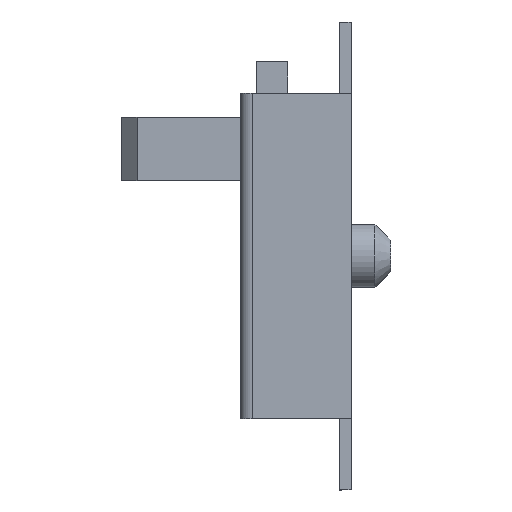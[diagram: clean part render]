
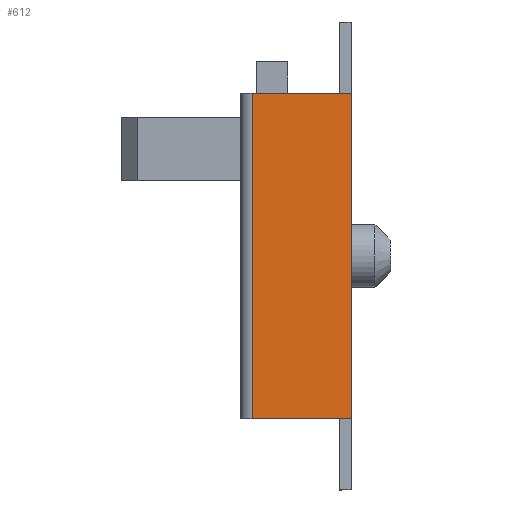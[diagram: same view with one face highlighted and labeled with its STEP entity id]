
A CAD part, left-side view. The second image highlights one B-rep face of the part: STEP entity #612.
In plain terms, the highlighted planar face has unit normal (-1, 0, 0).
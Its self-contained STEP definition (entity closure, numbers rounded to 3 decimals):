
#341 = EDGE_CURVE ( 'NONE', #465, #432, #1978, .T. ) ;
#432 = VERTEX_POINT ( 'NONE', #2171 ) ;
#465 = VERTEX_POINT ( 'NONE', #2185 ) ;
#611 = ORIENTED_EDGE ( 'NONE', *, *, #894, .F. ) ;
#612 = ADVANCED_FACE ( 'NONE', ( #2656 ), #2675, .F. ) ;
#617 = ORIENTED_EDGE ( 'NONE', *, *, #341, .F. ) ;
#618 = ORIENTED_EDGE ( 'NONE', *, *, #619, .T. ) ;
#619 = EDGE_CURVE ( 'NONE', #893, #733, #2710, .T. ) ;
#620 = EDGE_LOOP ( 'NONE', ( #617, #611, #618, #706 ) ) ;
#706 = ORIENTED_EDGE ( 'NONE', *, *, #732, .F. ) ;
#732 = EDGE_CURVE ( 'NONE', #432, #733, #3086, .T. ) ;
#733 = VERTEX_POINT ( 'NONE', #3073 ) ;
#893 = VERTEX_POINT ( 'NONE', #3408 ) ;
#894 = EDGE_CURVE ( 'NONE', #893, #465, #3295, .T. ) ;
#1859 = DIRECTION ( 'NONE',  ( 0., 0., 1. ) ) ;
#1860 = VECTOR ( 'NONE', #1859, 1000. ) ;
#1861 = CARTESIAN_POINT ( 'NONE',  ( -4.85, 1.25, -2.05 ) ) ;
#1978 = LINE ( 'NONE', #1861, #1860 ) ;
#2171 = CARTESIAN_POINT ( 'NONE',  ( -4.85, 1.25, 2.05 ) ) ;
#2185 = CARTESIAN_POINT ( 'NONE',  ( -4.85, 1.25, -2.05 ) ) ;
#2656 = FACE_OUTER_BOUND ( 'NONE', #620, .T. ) ;
#2672 = DIRECTION ( 'NONE',  ( 1., 0., 0. ) ) ;
#2673 = CARTESIAN_POINT ( 'NONE',  ( -4.85, 1.4, -2.05 ) ) ;
#2674 = AXIS2_PLACEMENT_3D ( 'NONE', #2673, #2672, #2678 ) ;
#2675 = PLANE ( 'NONE',  #2674 ) ;
#2678 = DIRECTION ( 'NONE',  ( 0., 0., -1. ) ) ;
#2707 = DIRECTION ( 'NONE',  ( 0., 0., 1. ) ) ;
#2708 = VECTOR ( 'NONE', #2707, 1000. ) ;
#2709 = CARTESIAN_POINT ( 'NONE',  ( -4.85, 0., 2.05 ) ) ;
#2710 = LINE ( 'NONE', #2709, #2708 ) ;
#3031 = DIRECTION ( 'NONE',  ( 0., -1., 0. ) ) ;
#3073 = CARTESIAN_POINT ( 'NONE',  ( -4.85, 0., 2.05 ) ) ;
#3086 = LINE ( 'NONE', #3093, #3092 ) ;
#3092 = VECTOR ( 'NONE', #3031, 1000. ) ;
#3093 = CARTESIAN_POINT ( 'NONE',  ( -4.85, 1.4, 2.05 ) ) ;
#3295 = LINE ( 'NONE', #3345, #3344 ) ;
#3343 = DIRECTION ( 'NONE',  ( 0., 1., 0. ) ) ;
#3344 = VECTOR ( 'NONE', #3343, 1000. ) ;
#3345 = CARTESIAN_POINT ( 'NONE',  ( -4.85, 1.4, -2.05 ) ) ;
#3408 = CARTESIAN_POINT ( 'NONE',  ( -4.85, 0., -2.05 ) ) ;
